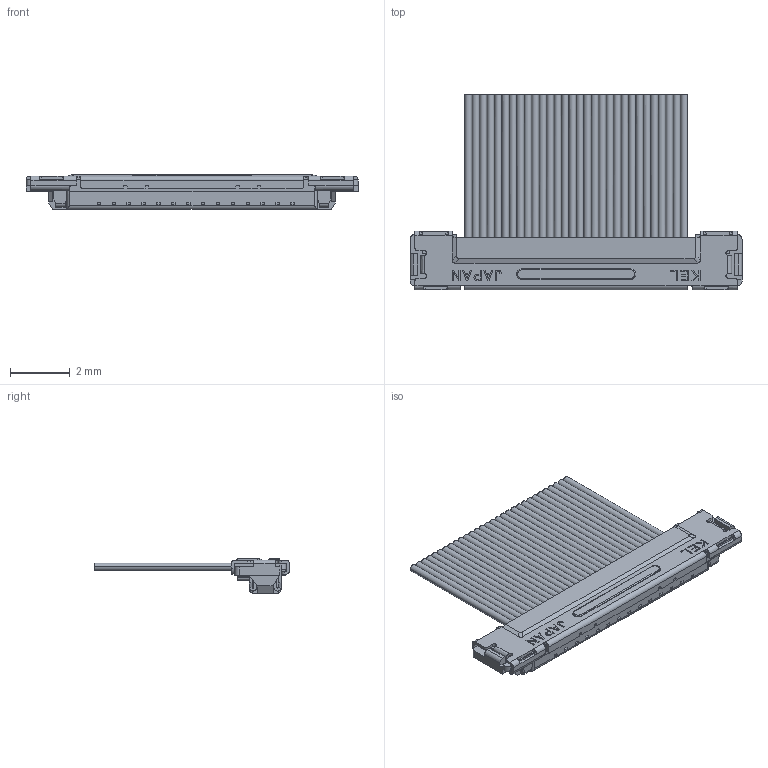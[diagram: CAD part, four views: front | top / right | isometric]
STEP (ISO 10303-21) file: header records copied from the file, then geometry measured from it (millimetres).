
FILE_DESCRIPTION(('Creo Elements/Direct Modeling STEP Export'),'2;1');
FILE_NAME('XSLS20-30_ST.stp','2017-08-07T11:09:54',(''),(''),'Creo Elements/Direct Modeling STEP processor for AP214 (Solid Model)','Creo Elements/Direct Modeling 19.0F 14-Feb-2017 (C) Parametric Technology GmbH','');
FILE_SCHEMA(('AUTOMOTIVE_DESIGN { 1 0 10303 214 1 1 1 1 }'));
Length unit declared in the file: millimetre
Products named in the file (1): XSLS20-30
Bounding box: 11.15 x 6.57 x 1.17 mm (x, y, z)
Volume: 14.5 mm3; surface area: 342.3 mm2
Topology: 1 solids, 1 shells, 834 faces, 2220 edges, 1455 vertices
Faces by surface type: plane 537, cylinder 278, bspline 17, torus 2
Entity records: 27288 total; most frequent: CARTESIAN_POINT 7206, ORIENTED_EDGE 4440, DIRECTION 3817, EDGE_CURVE 2220, VECTOR 1485, LINE 1485, VERTEX_POINT 1455, AXIS2_PLACEMENT_3D 1166
